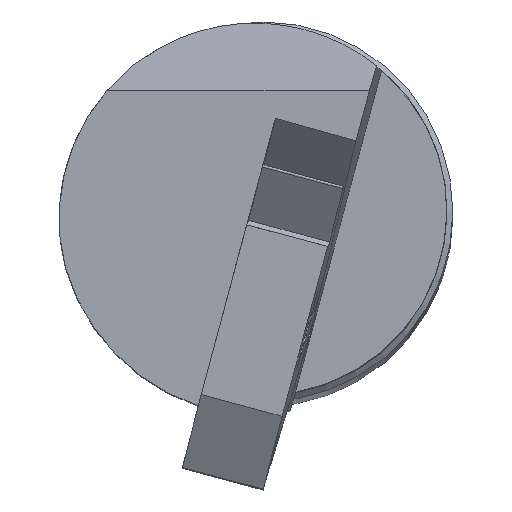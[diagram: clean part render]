
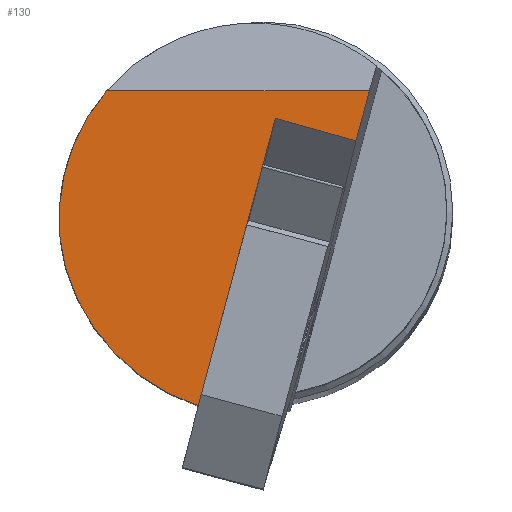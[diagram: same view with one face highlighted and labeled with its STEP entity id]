
A CAD part, top view. The second image highlights one B-rep face of the part: STEP entity #130.
In plain terms, the highlighted planar face has unit normal (0, 0, 1).
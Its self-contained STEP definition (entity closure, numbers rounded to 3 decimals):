
#58 = ORIENTED_EDGE ( 'NONE', *, *, #705, .T. ) ;
#83 = CARTESIAN_POINT ( 'NONE',  ( -8.6, 5., 0. ) ) ;
#130 = ADVANCED_FACE ( 'NONE', ( #427 ), #557, .T. ) ;
#195 = LINE ( 'NONE', #818, #1115 ) ;
#292 = VERTEX_POINT ( 'NONE', #1214 ) ;
#310 = VERTEX_POINT ( 'NONE', #749 ) ;
#321 = LINE ( 'NONE', #83, #369 ) ;
#345 = CARTESIAN_POINT ( 'NONE',  ( -0.349, -0.336, 0. ) ) ;
#348 = VERTEX_POINT ( 'NONE', #405 ) ;
#369 = VECTOR ( 'NONE', #816, 1000. ) ;
#373 = AXIS2_PLACEMENT_3D ( 'NONE', #792, #1526, #784 ) ;
#385 = LINE ( 'NONE', #1551, #1570 ) ;
#405 = CARTESIAN_POINT ( 'NONE',  ( 4.446, 5., 0. ) ) ;
#427 = FACE_OUTER_BOUND ( 'NONE', #505, .T. ) ;
#444 = ORIENTED_EDGE ( 'NONE', *, *, #800, .T. ) ;
#450 = DIRECTION ( 'NONE',  ( 1., 0., 0. ) ) ;
#463 = VERTEX_POINT ( 'NONE', #1243 ) ;
#505 = EDGE_LOOP ( 'NONE', ( #1447, #444, #58, #1517, #939, #1034 ) ) ;
#519 = VECTOR ( 'NONE', #1394, 1000. ) ;
#557 = PLANE ( 'NONE',  #373 ) ;
#590 = DIRECTION ( 'NONE',  ( 0., 0., 1. ) ) ;
#599 = EDGE_CURVE ( 'NONE', #292, #310, #922, .T. ) ;
#705 = EDGE_CURVE ( 'NONE', #463, #1296, #1130, .T. ) ;
#711 = DIRECTION ( 'NONE',  ( 0.259, 0.966, 0. ) ) ;
#749 = CARTESIAN_POINT ( 'NONE',  ( 0.515, 3.856, 0. ) ) ;
#775 = EDGE_CURVE ( 'NONE', #348, #292, #195, .T. ) ;
#779 = VERTEX_POINT ( 'NONE', #1434 ) ;
#784 = DIRECTION ( 'NONE',  ( 1., 0., 0. ) ) ;
#792 = CARTESIAN_POINT ( 'NONE',  ( 0., 0., 0. ) ) ;
#800 = EDGE_CURVE ( 'NONE', #779, #463, #832, .T. ) ;
#816 = DIRECTION ( 'NONE',  ( 1., 0., 0. ) ) ;
#818 = CARTESIAN_POINT ( 'NONE',  ( 0.753, -8.781, 0. ) ) ;
#832 = CIRCLE ( 'NONE', #1125, 8.174 ) ;
#922 = LINE ( 'NONE', #1514, #519 ) ;
#939 = ORIENTED_EDGE ( 'NONE', *, *, #599, .F. ) ;
#953 = CARTESIAN_POINT ( 'NONE',  ( -2.706, -8.163, 0. ) ) ;
#1034 = ORIENTED_EDGE ( 'NONE', *, *, #775, .F. ) ;
#1046 = CARTESIAN_POINT ( 'NONE',  ( 0., 0., 0. ) ) ;
#1057 = DIRECTION ( 'NONE',  ( 0., 0., 1. ) ) ;
#1115 = VECTOR ( 'NONE', #1429, 1000. ) ;
#1125 = AXIS2_PLACEMENT_3D ( 'NONE', #345, #590, #1174 ) ;
#1130 = CIRCLE ( 'NONE', #1196, 8.6 ) ;
#1143 = EDGE_CURVE ( 'NONE', #779, #348, #321, .T. ) ;
#1174 = DIRECTION ( 'NONE',  ( 1., 0., 0. ) ) ;
#1196 = AXIS2_PLACEMENT_3D ( 'NONE', #1046, #1057, #450 ) ;
#1204 = EDGE_CURVE ( 'NONE', #1296, #310, #385, .T. ) ;
#1214 = CARTESIAN_POINT ( 'NONE',  ( 3.888, 2.917, 0. ) ) ;
#1243 = CARTESIAN_POINT ( 'NONE',  ( -8.26, -2.395, 0. ) ) ;
#1296 = VERTEX_POINT ( 'NONE', #953 ) ;
#1394 = DIRECTION ( 'NONE',  ( -0.963, 0.268, 0. ) ) ;
#1429 = DIRECTION ( 'NONE',  ( -0.259, -0.966, 0. ) ) ;
#1434 = CARTESIAN_POINT ( 'NONE',  ( -6.542, 5., 0. ) ) ;
#1447 = ORIENTED_EDGE ( 'NONE', *, *, #1143, .F. ) ;
#1514 = CARTESIAN_POINT ( 'NONE',  ( 1.033, 3.712, 0. ) ) ;
#1517 = ORIENTED_EDGE ( 'NONE', *, *, #1204, .T. ) ;
#1526 = DIRECTION ( 'NONE',  ( 0., 0., 1. ) ) ;
#1551 = CARTESIAN_POINT ( 'NONE',  ( -0.483, 0.13, 0. ) ) ;
#1570 = VECTOR ( 'NONE', #711, 1000. ) ;
